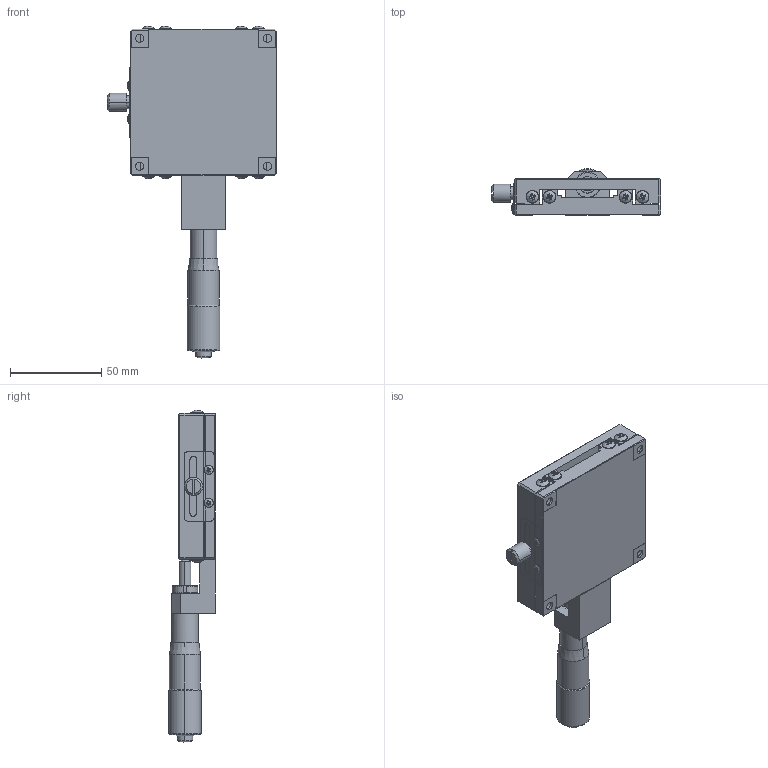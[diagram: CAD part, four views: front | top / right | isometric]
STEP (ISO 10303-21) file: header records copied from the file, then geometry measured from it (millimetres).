
FILE_DESCRIPTION (( 'STEP AP214' ), '1' );
FILE_NAME ('X80-C.STEP', '2022-09-04T03:36:00', ( '' ), ( '' ), 'SwSTEP 2.0', 'SolidWorks 2017', '' );
FILE_SCHEMA (( 'AUTOMOTIVE_DESIGN' ));
Length unit declared in the file: millimetre
Products named in the file (1): X80-C
Bounding box: 92.6 x 25.7 x 181.74 mm (x, y, z)
Surface area: 48217.2 mm2 (no closed solid volume)
Topology: 0 solids, 15 shells, 452 faces, 1172 edges, 732 vertices
Faces by surface type: plane 253, cylinder 98, cone 69, bspline 32
Entity records: 16119 total; most frequent: CARTESIAN_POINT 5836, ORIENTED_EDGE 2191, DIRECTION 1901, EDGE_CURVE 1161, VERTEX_POINT 732, AXIS2_PLACEMENT_3D 678, VECTOR 545, LINE 545
